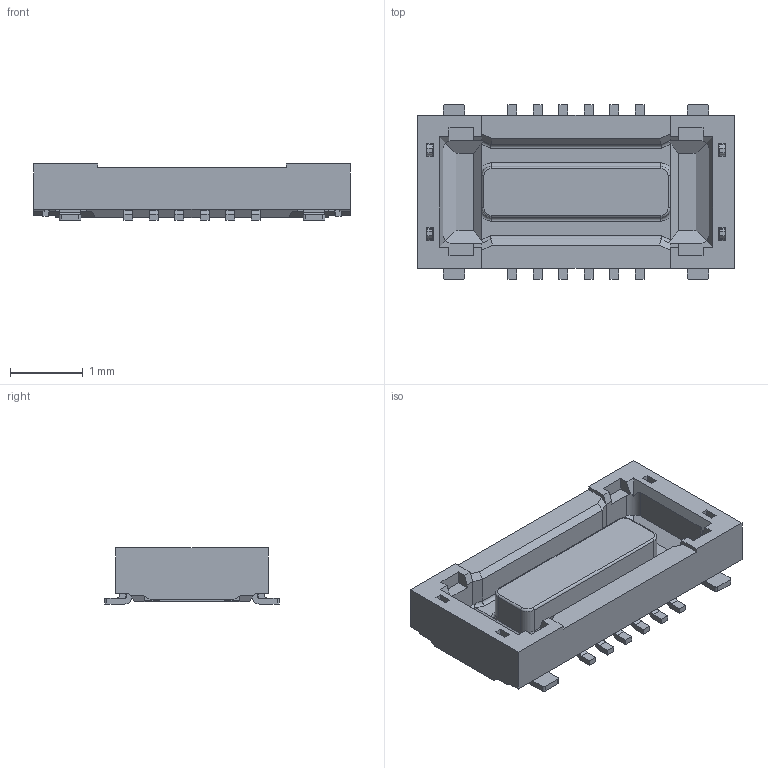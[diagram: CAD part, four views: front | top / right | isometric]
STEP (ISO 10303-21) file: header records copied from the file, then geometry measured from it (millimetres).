
FILE_DESCRIPTION(('CATIA V5 STEP Exchange'),'2;1');
FILE_NAME('E:\3D 備用 (編集厳禁)\5xxx\5843-李-2 PIN変更 ●\3D Web\REC\002 Type\20_5843_012_002_829_+.stp','2015-05-13T06:43:17+00:00',('none'),('none'),'CATIA Version 5 Release 19 SP 9 (IN-10)','CATIA V5 STEP AP214','none');
FILE_SCHEMA(('AUTOMOTIVE_DESIGN { 1 0 10303 214 1 1 1 1 }'));
Length unit declared in the file: millimetre
Products named in the file (1): Part2
Bounding box: 4.35 x 2.4 x 0.77 mm (x, y, z)
Volume: 4.3 mm3; surface area: 43.6 mm2
Topology: 1 solids, 1 shells, 482 faces, 1414 edges, 934 vertices
Faces by surface type: plane 334, cylinder 140, torus 8
Entity records: 14467 total; most frequent: ORIENTED_EDGE 2828, CARTESIAN_POINT 2754, DIRECTION 1808, EDGE_CURVE 1414, VECTOR 1078, LINE 1078, VERTEX_POINT 934, AXIS2_PLACEMENT_3D 502
